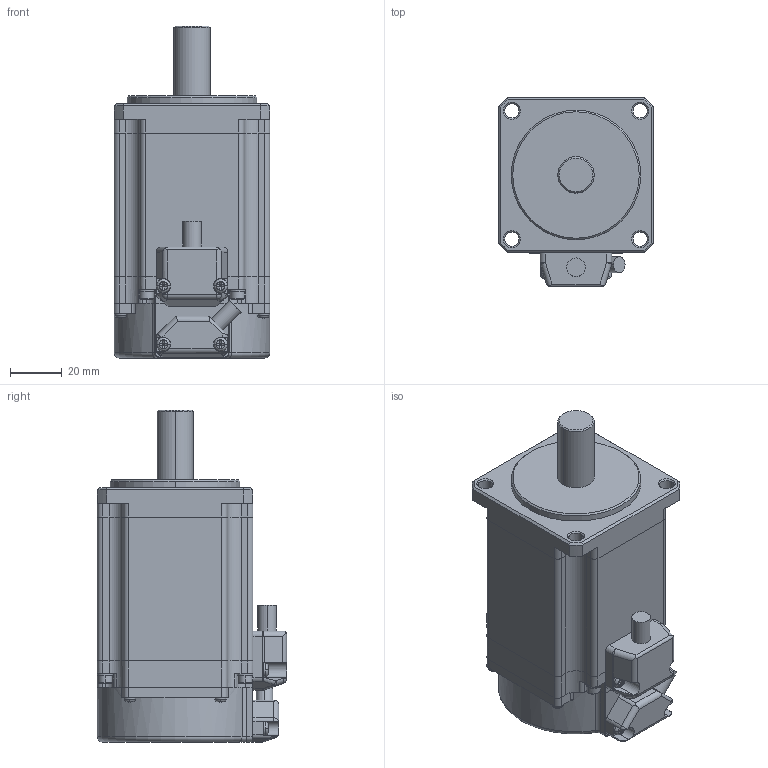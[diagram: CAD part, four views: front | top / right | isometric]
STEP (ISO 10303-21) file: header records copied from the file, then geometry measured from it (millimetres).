
FILE_DESCRIPTION(('Creo Elements/Direct Modeling STEP Export'),'2;1');
FILE_NAME('TS4609_BK無.stp','2016-12-22T16:36:58',(''),(''),'Creo Elements/Direct Modeling STEP processor for AP214 (Solid Model)','Creo Elements/Direct Modeling 17.0F 20-Aug-2012 (C) Parametric Technology GmbH','');
FILE_SCHEMA(('AUTOMOTIVE_DESIGN { 1 0 10303 214 1 1 1 1 }'));
Length unit declared in the file: millimetre
Products named in the file (2): TS4609N1000; Assembly-1
Assembly tree (1 placements, depth 2):
  Assembly-1
    TS4609N1000
Bounding box: 60 x 73 x 128.1 mm (x, y, z)
Volume: 330947.6 mm3; surface area: 33122.2 mm2
Topology: 1 solids, 1 shells, 684 faces, 1594 edges, 907 vertices
Faces by surface type: plane 321, cylinder 223, cone 80, sphere 29, torus 21, bspline 10
Entity records: 19489 total; most frequent: CARTESIAN_POINT 4930, ORIENTED_EDGE 3146, DIRECTION 3001, EDGE_CURVE 1573, AXIS2_PLACEMENT_3D 1180, VERTEX_POINT 907, EDGE_LOOP 708, FACE_OUTER_BOUND 684
